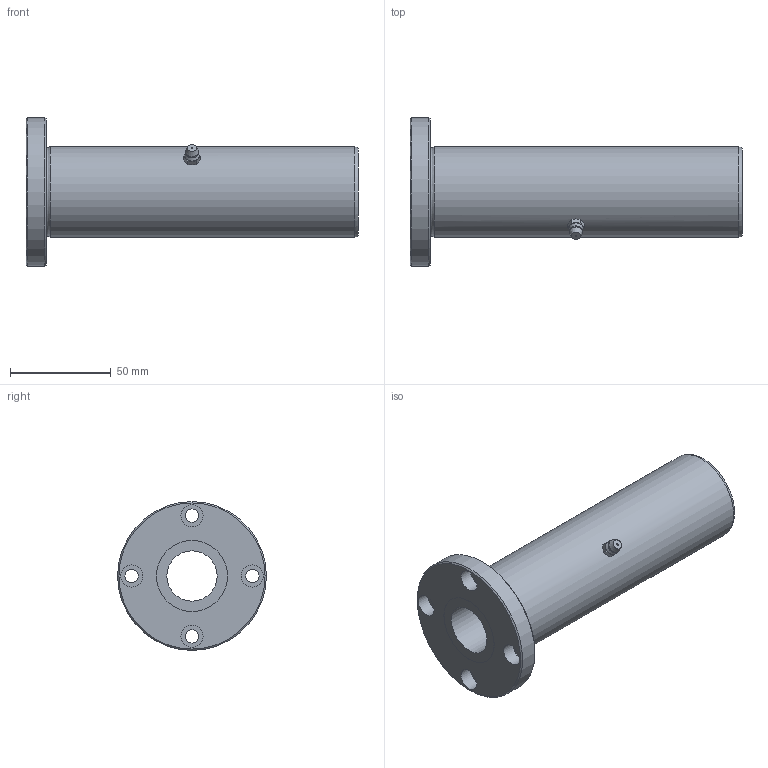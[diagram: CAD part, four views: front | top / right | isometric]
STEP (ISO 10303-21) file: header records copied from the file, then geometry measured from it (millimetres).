
FILE_DESCRIPTION((''),'2;1');
FILE_NAME('D:\製品 (図面)\カタログ用3D\リニアベアリング関連\STEP形式\LFL\LFL25.stp','2010-06-04T09:00:25',('Tsuchiya'),(''),'Autodesk Inventor 10','Autodesk Inventor 10','');
FILE_SCHEMA(('AUTOMOTIVE_DESIGN { 1 0 10303 214 1 1 1 1 }'));
Length unit declared in the file: millimetre
Products named in the file (1): LFL25
Bounding box: 165 x 74 x 74 mm (x, y, z)
Volume: 205472.6 mm3; surface area: 45719.8 mm2
Topology: 1 solids, 1 shells, 55 faces, 110 edges, 66 vertices
Faces by surface type: plane 19, cone 15, cylinder 15, bspline 3, sphere 2, torus 1
Full cylindrical faces by diameter (mm): 6.6 x4, 11 x4, 25 x1, 35.3 x2, 45 x1, 74 x1
Entity records: 1561 total; most frequent: CARTESIAN_POINT 508, DIRECTION 220, ORIENTED_EDGE 176, AXIS2_PLACEMENT_3D 105, EDGE_LOOP 96, EDGE_CURVE 88, VERTEX_POINT 64, FACE_OUTER_BOUND 55
